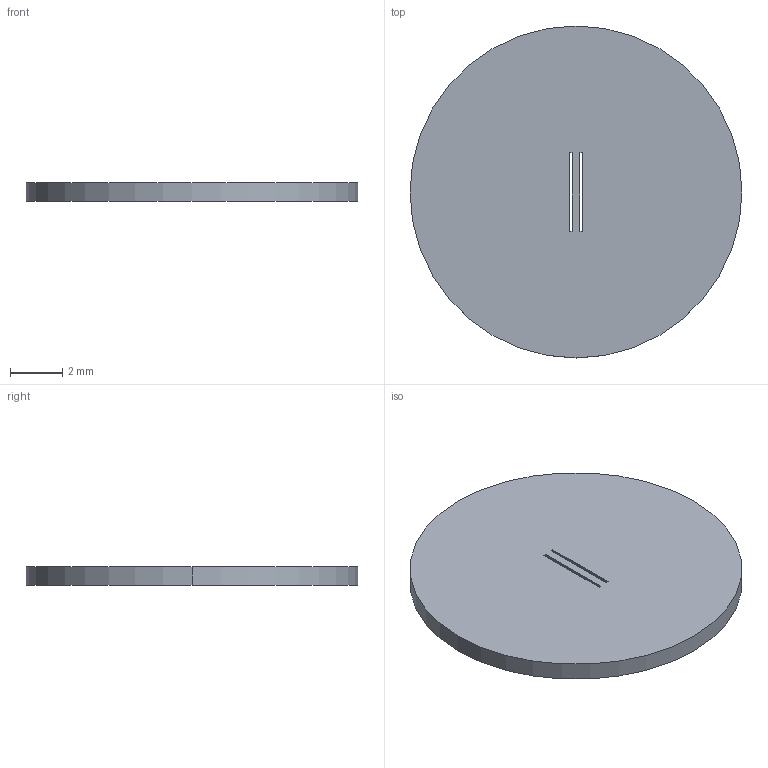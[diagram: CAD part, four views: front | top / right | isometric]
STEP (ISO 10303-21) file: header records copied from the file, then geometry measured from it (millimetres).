
FILE_DESCRIPTION((''),'2;1');
FILE_NAME('2-01-3MM','2022-04-24T',('Administrator'),(''),'CREO PARAMETRIC BY PTC INC, 2015290','CREO PARAMETRIC BY PTC INC, 2015290','');
FILE_SCHEMA(('CONFIG_CONTROL_DESIGN'));
Length unit declared in the file: millimetre
Products named in the file (1): 2-01-3MM
Bounding box: 12.7 x 12.7 x 0.7 mm (x, y, z)
Volume: 88.3 mm3; surface area: 288.8 mm2
Topology: 1 solids, 1 shells, 12 faces, 30 edges, 20 vertices
Faces by surface type: plane 10, cylinder 2
Entity records: 404 total; most frequent: CARTESIAN_POINT 62, ORIENTED_EDGE 60, DIRECTION 58, EDGE_CURVE 30, VECTOR 26, LINE 26, VERTEX_POINT 20, AXIS2_PLACEMENT_3D 16
